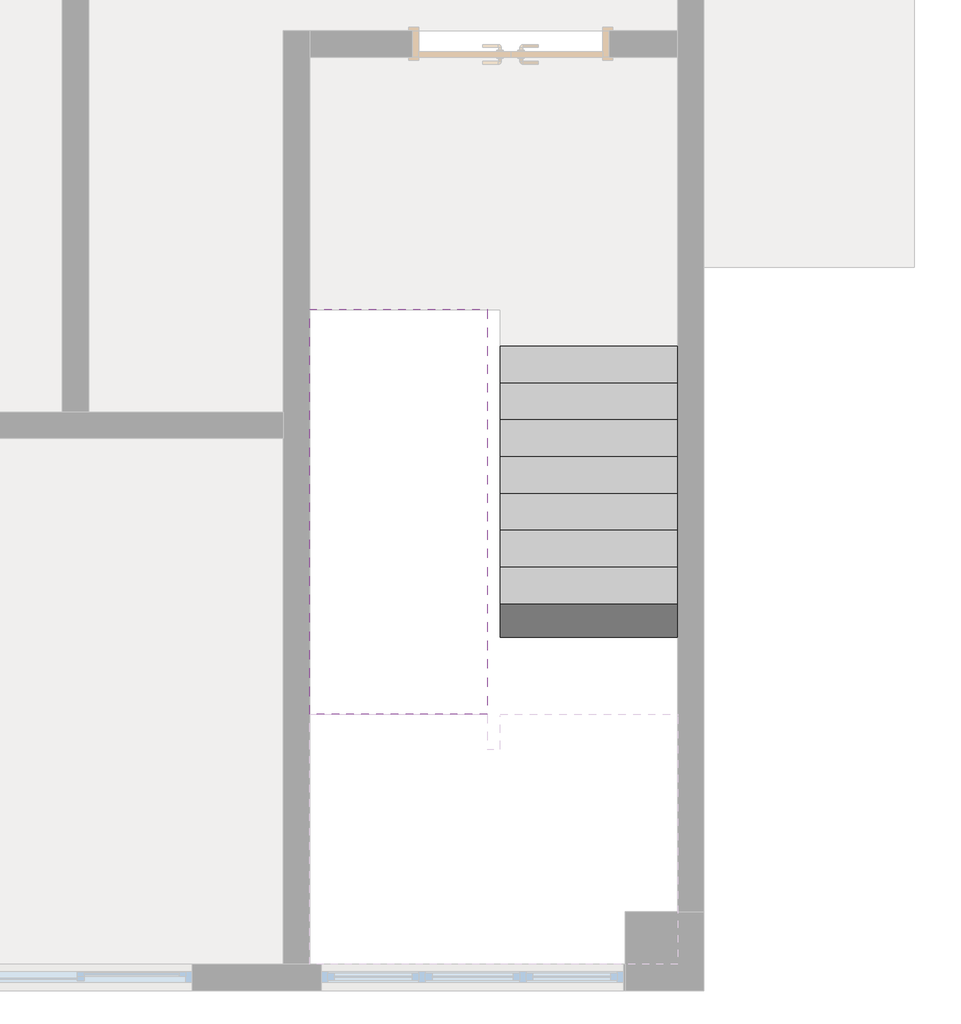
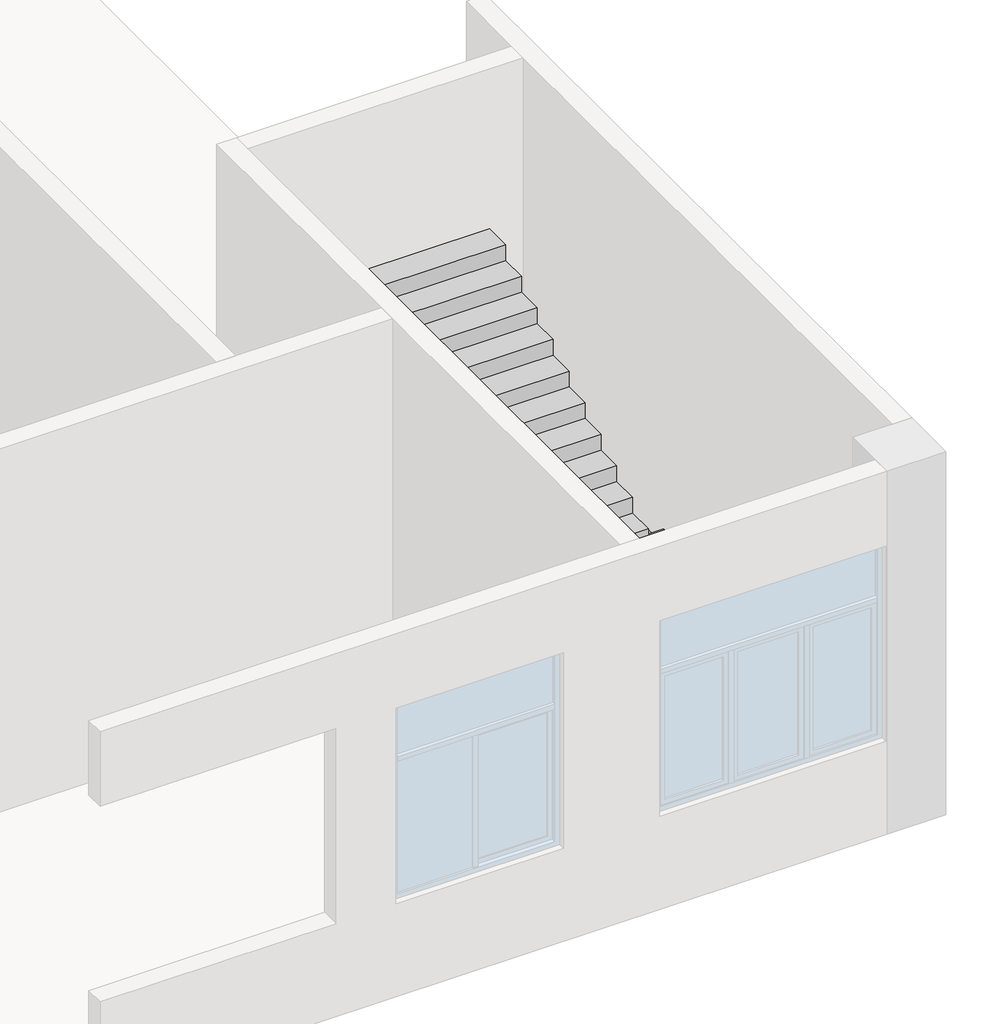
# One storey, part 3 of 3: 2 stair flights.
"""IFC4 building model written with IfcOpenShell, lengths in millimetres."""

from ifc_helpers import new_model, si_unit, origin, place, context, project, spatial, faceted_brep, element, save

model = new_model("IFC4")

# Units and contexts
model_context = context("Model", 3, world=origin())
ifc_project = project(units=[si_unit("LENGTHUNIT", "METRE", prefix="MILLI")], contexts=[model_context])

# Site, building, storey
site = spatial("IfcSite", under=ifc_project)
building = spatial("IfcBuilding", under=site)
storey = spatial("IfcBuildingStorey", under=building, Name="标高 4", Elevation=7100.0)

# Stair flights
placement = place(None, origin())
element("IfcStairFlight", 1, ObjectType="150", at=placement, inside=storey, context=model_context, shape_type="Brep", body=[
    faceted_brep([(13718.2324742, -5916.6725016, 7269.5652174), (13718.2324742, -5636.6725016, 7269.5652174), (12368.2324742, -5636.6725016, 7269.5652174), (12368.2324742, -5916.6725016, 7269.5652174), (13718.2324742, -5916.6725016, 7129.2760651), (13718.2324742, -5868.3294608, 7100.0), (13718.2324742, -5636.6725016, 7100.0), (12368.2324742, -5636.6725016, 7100.0), (12368.2324742, -5868.3294608, 7100.0), (12368.2324742, -5916.6725016, 7129.2760651), (13718.2324742, -6196.6725016, 7439.1304348), (13718.2324742, -5916.6725016, 7439.1304348), (12368.2324742, -5916.6725016, 7439.1304348), (12368.2324742, -6196.6725016, 7439.1304348), (13718.2324742, -6196.6725016, 7298.8412825), (12368.2324742, -6196.6725016, 7298.8412825), (13718.2324742, -6476.6725016, 7608.6956522), (13718.2324742, -6196.6725016, 7608.6956522), (12368.2324742, -6196.6725016, 7608.6956522), (12368.2324742, -6476.6725016, 7608.6956522), (13718.2324742, -6476.6725016, 7468.4064999), (12368.2324742, -6476.6725016, 7468.4064999), (13718.2324742, -6756.6725016, 7778.2608696), (13718.2324742, -6476.6725016, 7778.2608696), (12368.2324742, -6476.6725016, 7778.2608696), (12368.2324742, -6756.6725016, 7778.2608696), (13718.2324742, -6756.6725016, 7637.9717173), (12368.2324742, -6756.6725016, 7637.9717173), (13718.2324742, -7036.6725016, 7947.826087), (13718.2324742, -6756.6725016, 7947.826087), (12368.2324742, -6756.6725016, 7947.826087), (12368.2324742, -7036.6725016, 7947.826087), (13718.2324742, -7036.6725016, 7807.5369346), (12368.2324742, -7036.6725016, 7807.5369346), (13718.2324742, -7316.6725016, 8117.3913043), (13718.2324742, -7036.6725016, 8117.3913043), (12368.2324742, -7036.6725016, 8117.3913043), (12368.2324742, -7316.6725016, 8117.3913043), (13718.2324742, -7316.6725016, 7977.102152), (12368.2324742, -7316.6725016, 7977.102152), (13718.2324742, -7596.6725016, 8286.9565217), (13718.2324742, -7316.6725016, 8286.9565217), (12368.2324742, -7316.6725016, 8286.9565217), (12368.2324742, -7596.6725016, 8286.9565217), (13718.2324742, -7596.6725016, 8146.6673694), (12368.2324742, -7596.6725016, 8146.6673694), (13718.2324742, -7876.6725016, 8456.5217391), (13718.2324742, -7596.6725016, 8456.5217391), (12368.2324742, -7596.6725016, 8456.5217391), (12368.2324742, -7876.6725016, 8456.5217391), (13718.2324742, -7876.6725016, 8316.2325868), (12368.2324742, -7876.6725016, 8316.2325868), (13718.2324742, -8156.6725016, 8626.0869565), (13718.2324742, -7876.6725016, 8626.0869565), (12368.2324742, -7876.6725016, 8626.0869565), (12368.2324742, -8156.6725016, 8626.0869565), (13718.2324742, -8156.6725016, 8485.7978042), (12368.2324742, -8156.6725016, 8485.7978042), (13718.2324742, -8436.6725016, 8795.6521739), (13718.2324742, -8156.6725016, 8795.6521739), (12368.2324742, -8156.6725016, 8795.6521739), (12368.2324742, -8436.6725016, 8795.6521739), (13718.2324742, -8436.6725016, 8655.3630216), (12368.2324742, -8436.6725016, 8655.3630216)], [[[0, 1, 2, 3]], [[1, 0, 4, 5, 6]], [[2, 1, 6, 7]], [[3, 2, 7, 8, 9]], [[10, 11, 12, 13]], [[11, 10, 14, 4, 0]], [[0, 3, 12, 11]], [[13, 12, 3, 9, 15]], [[16, 17, 18, 19]], [[17, 16, 20, 14, 10]], [[10, 13, 18, 17]], [[19, 18, 13, 15, 21]], [[22, 23, 24, 25]], [[23, 22, 26, 20, 16]], [[16, 19, 24, 23]], [[25, 24, 19, 21, 27]], [[28, 29, 30, 31]], [[29, 28, 32, 26, 22]], [[22, 25, 30, 29]], [[31, 30, 25, 27, 33]], [[34, 35, 36, 37]], [[35, 34, 38, 32, 28]], [[28, 31, 36, 35]], [[37, 36, 31, 33, 39]], [[40, 41, 42, 43]], [[41, 40, 44, 38, 34]], [[34, 37, 42, 41]], [[43, 42, 37, 39, 45]], [[46, 47, 48, 49]], [[47, 46, 50, 44, 40]], [[40, 43, 48, 47]], [[49, 48, 43, 45, 51]], [[52, 53, 54, 55]], [[53, 52, 56, 50, 46]], [[46, 49, 54, 53]], [[55, 54, 49, 51, 57]], [[58, 59, 60, 61]], [[59, 58, 62, 56, 52]], [[52, 55, 60, 59]], [[61, 60, 55, 57, 63]], [[58, 61, 63, 62]], [[7, 6, 5, 8]], [[8, 5, 4, 14, 20, 26, 32, 38, 44, 50, 56, 62, 63, 57, 51, 45, 39, 33, 27, 21, 15, 9]]]),
])
element("IfcStairFlight", 2, ObjectType="150", at=placement, inside=storey, context=model_context, shape_type="Brep", body=[
    faceted_brep([(10918.2324742, -8156.6725016, 9134.7826087), (10918.2324742, -8436.6725016, 9134.7826087), (12268.2324742, -8436.6725016, 9134.7826087), (12268.2324742, -8156.6725016, 9134.7826087), (10918.2324742, -8156.6725016, 8994.4934564), (10918.2324742, -8436.6725016, 8824.928239), (10918.2324742, -8436.6725016, 8965.2173913), (12268.2324742, -8436.6725016, 8824.928239), (12268.2324742, -8436.6725016, 8965.2173913), (12268.2324742, -8156.6725016, 8994.4934564), (10918.2324742, -7876.6725016, 9304.3478261), (10918.2324742, -8156.6725016, 9304.3478261), (12268.2324742, -8156.6725016, 9304.3478261), (12268.2324742, -7876.6725016, 9304.3478261), (10918.2324742, -7876.6725016, 9164.0586738), (12268.2324742, -7876.6725016, 9164.0586738), (10918.2324742, -7596.6725016, 9473.9130435), (10918.2324742, -7876.6725016, 9473.9130435), (12268.2324742, -7876.6725016, 9473.9130435), (12268.2324742, -7596.6725016, 9473.9130435), (10918.2324742, -7596.6725016, 9333.6238912), (12268.2324742, -7596.6725016, 9333.6238912), (10918.2324742, -7316.6725016, 9643.4782609), (10918.2324742, -7596.6725016, 9643.4782609), (12268.2324742, -7596.6725016, 9643.4782609), (12268.2324742, -7316.6725016, 9643.4782609), (10918.2324742, -7316.6725016, 9503.1891086), (12268.2324742, -7316.6725016, 9503.1891086), (10918.2324742, -7036.6725016, 9813.0434783), (10918.2324742, -7316.6725016, 9813.0434783), (12268.2324742, -7316.6725016, 9813.0434783), (12268.2324742, -7036.6725016, 9813.0434783), (10918.2324742, -7036.6725016, 9672.754326), (12268.2324742, -7036.6725016, 9672.754326), (10918.2324742, -6756.6725016, 9982.6086957), (10918.2324742, -7036.6725016, 9982.6086957), (12268.2324742, -7036.6725016, 9982.6086957), (12268.2324742, -6756.6725016, 9982.6086957), (10918.2324742, -6756.6725016, 9842.3195433), (12268.2324742, -6756.6725016, 9842.3195433), (10918.2324742, -6476.6725016, 10152.173913), (10918.2324742, -6756.6725016, 10152.173913), (12268.2324742, -6756.6725016, 10152.173913), (12268.2324742, -6476.6725016, 10152.173913), (10918.2324742, -6476.6725016, 10011.8847607), (12268.2324742, -6476.6725016, 10011.8847607), (10918.2324742, -6196.6725016, 10321.7391304), (10918.2324742, -6476.6725016, 10321.7391304), (12268.2324742, -6476.6725016, 10321.7391304), (12268.2324742, -6196.6725016, 10321.7391304), (10918.2324742, -6196.6725016, 10181.4499781), (12268.2324742, -6196.6725016, 10181.4499781), (10918.2324742, -5916.6725016, 10491.3043478), (10918.2324742, -6196.6725016, 10491.3043478), (12268.2324742, -6196.6725016, 10491.3043478), (12268.2324742, -5916.6725016, 10491.3043478), (10918.2324742, -5916.6725016, 10351.0151955), (12268.2324742, -5916.6725016, 10351.0151955), (10918.2324742, -5636.6725016, 10660.8695652), (10918.2324742, -5916.6725016, 10660.8695652), (12268.2324742, -5916.6725016, 10660.8695652), (12268.2324742, -5636.6725016, 10660.8695652), (10918.2324742, -5636.6725016, 10520.5804129), (12268.2324742, -5636.6725016, 10520.5804129), (10918.2324742, -5356.6725016, 10690.1456303), (12268.2324742, -5356.6725016, 10690.1456303), (10918.2324742, -5356.6725016, 10830.4347826), (10918.2324742, -5636.6725016, 10830.4347826), (12268.2324742, -5636.6725016, 10830.4347826), (12268.2324742, -5356.6725016, 10830.4347826)], [[[0, 1, 2, 3]], [[1, 0, 4, 5, 6]], [[2, 1, 6, 5, 7, 8]], [[3, 2, 8, 7, 9]], [[10, 11, 12, 13]], [[11, 10, 14, 4, 0]], [[12, 11, 0, 3]], [[13, 12, 3, 9, 15]], [[16, 17, 18, 19]], [[17, 16, 20, 14, 10]], [[18, 17, 10, 13]], [[19, 18, 13, 15, 21]], [[22, 23, 24, 25]], [[23, 22, 26, 20, 16]], [[24, 23, 16, 19]], [[25, 24, 19, 21, 27]], [[28, 29, 30, 31]], [[29, 28, 32, 26, 22]], [[30, 29, 22, 25]], [[31, 30, 25, 27, 33]], [[34, 35, 36, 37]], [[35, 34, 38, 32, 28]], [[36, 35, 28, 31]], [[37, 36, 31, 33, 39]], [[40, 41, 42, 43]], [[41, 40, 44, 38, 34]], [[42, 41, 34, 37]], [[43, 42, 37, 39, 45]], [[46, 47, 48, 49]], [[47, 46, 50, 44, 40]], [[48, 47, 40, 43]], [[49, 48, 43, 45, 51]], [[52, 53, 54, 55]], [[53, 52, 56, 50, 46]], [[54, 53, 46, 49]], [[55, 54, 49, 51, 57]], [[58, 59, 60, 61]], [[59, 58, 62, 56, 52]], [[60, 59, 52, 55]], [[61, 60, 55, 57, 63]], [[5, 4, 14, 20, 26, 32, 38, 44, 50, 56, 62, 64, 65, 63, 57, 51, 45, 39, 33, 27, 21, 15, 9, 7]], [[66, 67, 68, 69]], [[67, 66, 64, 62, 58]], [[68, 67, 58, 61]], [[69, 68, 61, 63, 65]], [[66, 69, 65, 64]]]),
])

save(model, "model.ifc")
